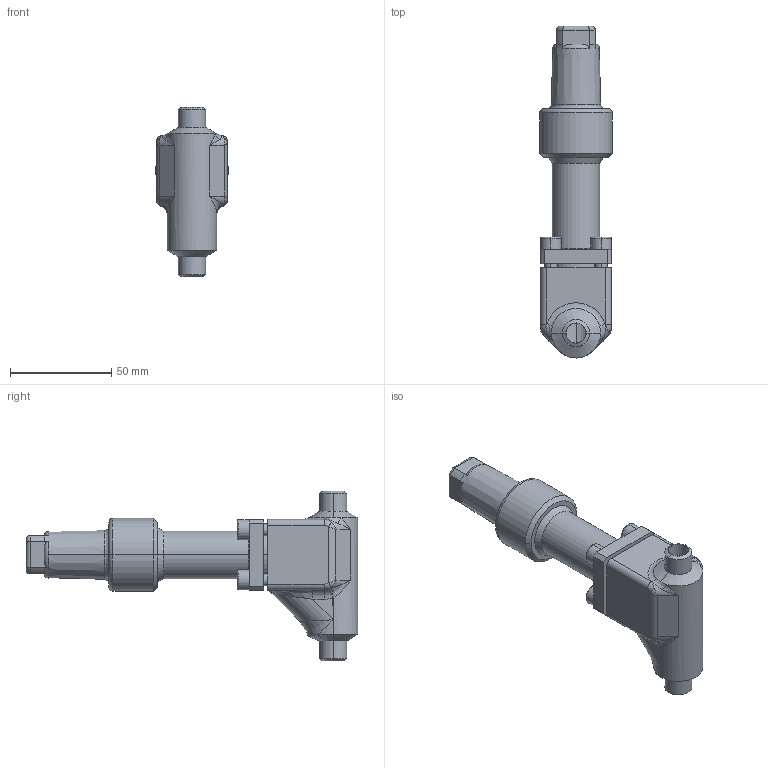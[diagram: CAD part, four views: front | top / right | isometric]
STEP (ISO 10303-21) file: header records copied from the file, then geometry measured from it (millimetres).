
FILE_DESCRIPTION (( 'STEP AP214' ), '1' );
FILE_NAME ('RVAK97300-DN008_R1_PS40.STEP', '2006-05-02T08:32:58', ( 'Herr Grams' ), ( 'AWP GmbH' ), 'SwSTEP 2.0', 'SolidWorks 2002296', '' );
FILE_SCHEMA (( 'AUTOMOTIVE_DESIGN' ));
Length unit declared in the file: millimetre
Products named in the file (6): RVAK97300-DN008_R1_PS40; Gehäuse96300E07-DN08_PS40_R1_Standard; Kappe96300E10_DN6-20_Standard; RVA99300E10_Deck+Schr-DN6-15_Standard; Deckel99300E10-DN6-15_PS40_Standard; Zylinderschraube-DIN912_M 6x 18
Assembly tree (8 placements, depth 3):
  RVAK97300-DN008_R1_PS40
    RVA99300E10_Deck+Schr-DN6-15_Standard
      Zylinderschraube-DIN912_M 6x 18  x4
      Deckel99300E10-DN6-15_PS40_Standard
    Kappe96300E10_DN6-20_Standard
    Gehäuse96300E07-DN08_PS40_R1_Standard
Bounding box: 36 x 164.2 x 84 mm (x, y, z)
Volume: 117552.6 mm3; surface area: 36426.9 mm2
Topology: 7 solids, 7 shells, 252 faces, 580 edges, 353 vertices
Faces by surface type: cylinder 88, plane 86, cone 29, bspline 25, torus 24
Entity records: 17533 total; most frequent: CARTESIAN_POINT 12501, ORIENTED_EDGE 916, DIRECTION 915, EDGE_CURVE 458, AXIS2_PLACEMENT_3D 377, VERTEX_POINT 281, EDGE_LOOP 223, FACE_OUTER_BOUND 198
